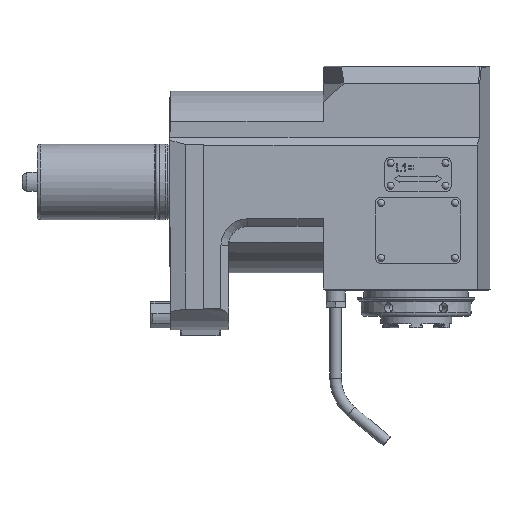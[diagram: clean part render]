
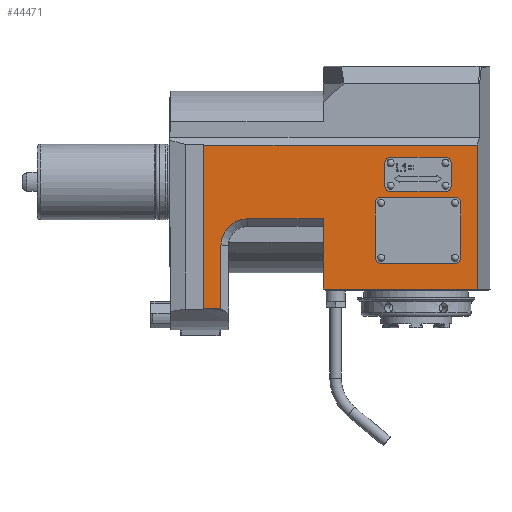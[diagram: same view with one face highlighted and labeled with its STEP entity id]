
A CAD part, front view. The second image highlights one B-rep face of the part: STEP entity #44471.
In plain terms, the highlighted planar face has unit normal (0, -1, 0).
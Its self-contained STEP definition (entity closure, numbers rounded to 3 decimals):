
#18962=VECTOR('',#30075,1.);
#19008=VECTOR('',#30147,1.);
#19132=VECTOR('',#30535,1.);
#19194=VECTOR('',#30767,1.);
#19199=VECTOR('',#30776,1.);
#19200=VECTOR('',#30777,1.);
#19201=VECTOR('',#30778,1.);
#19202=VECTOR('',#30781,1.);
#19203=VECTOR('',#30782,1.);
#19204=VECTOR('',#30785,1.);
#19205=VECTOR('',#30788,1.);
#19206=VECTOR('',#30791,1.);
#19207=VECTOR('',#30794,1.);
#19208=VECTOR('',#30797,1.);
#19209=VECTOR('',#30800,1.);
#19210=VECTOR('',#30803,1.);
#19874=LINE('',#37356,#18962);
#19920=LINE('',#37453,#19008);
#20044=LINE('',#37817,#19132);
#20106=LINE('',#38078,#19194);
#20111=LINE('',#38090,#19199);
#20112=LINE('',#38092,#19200);
#20113=LINE('',#38094,#19201);
#20114=LINE('',#38097,#19202);
#20115=LINE('',#38100,#19203);
#20116=LINE('',#38104,#19204);
#20117=LINE('',#38108,#19205);
#20118=LINE('',#38112,#19206);
#20119=LINE('',#38116,#19207);
#20120=LINE('',#38120,#19208);
#20121=LINE('',#38124,#19209);
#20122=LINE('',#38128,#19210);
#21097=PLANE('',#43251);
#22316=ORIENTED_EDGE('',*,*,#26809,.T.);
#22317=ORIENTED_EDGE('',*,*,#26488,.T.);
#22318=ORIENTED_EDGE('',*,*,#26537,.F.);
#22319=ORIENTED_EDGE('',*,*,#26705,.F.);
#22320=ORIENTED_EDGE('',*,*,#26815,.F.);
#22321=ORIENTED_EDGE('',*,*,#26816,.F.);
#22322=ORIENTED_EDGE('',*,*,#26817,.F.);
#22323=ORIENTED_EDGE('',*,*,#26818,.F.);
#22324=ORIENTED_EDGE('',*,*,#26819,.F.);
#22325=ORIENTED_EDGE('',*,*,#26820,.F.);
#22326=ORIENTED_EDGE('',*,*,#26821,.T.);
#22327=ORIENTED_EDGE('',*,*,#26822,.F.);
#22328=ORIENTED_EDGE('',*,*,#26823,.T.);
#22329=ORIENTED_EDGE('',*,*,#26824,.F.);
#22330=ORIENTED_EDGE('',*,*,#26825,.T.);
#22331=ORIENTED_EDGE('',*,*,#26826,.F.);
#22332=ORIENTED_EDGE('',*,*,#26827,.T.);
#22333=ORIENTED_EDGE('',*,*,#26828,.F.);
#22334=ORIENTED_EDGE('',*,*,#26829,.T.);
#22335=ORIENTED_EDGE('',*,*,#26830,.F.);
#22336=ORIENTED_EDGE('',*,*,#26831,.T.);
#22337=ORIENTED_EDGE('',*,*,#26832,.F.);
#22338=ORIENTED_EDGE('',*,*,#26833,.T.);
#22339=ORIENTED_EDGE('',*,*,#26834,.F.);
#22340=ORIENTED_EDGE('',*,*,#26835,.T.);
#24950=CIRCLE('',#43252,14.);
#24951=CIRCLE('',#43253,3.);
#24952=CIRCLE('',#43254,3.);
#24953=CIRCLE('',#43255,3.);
#24954=CIRCLE('',#43256,3.);
#24955=CIRCLE('',#43257,3.);
#24956=CIRCLE('',#43258,3.);
#24957=CIRCLE('',#43259,3.);
#24958=CIRCLE('',#43260,3.);
#25357=VERTEX_POINT('',#37348);
#25359=VERTEX_POINT('',#37354);
#25397=VERTEX_POINT('',#37451);
#25505=VERTEX_POINT('',#37815);
#25575=VERTEX_POINT('',#38077);
#25580=VERTEX_POINT('',#38089);
#25581=VERTEX_POINT('',#38091);
#25582=VERTEX_POINT('',#38093);
#25583=VERTEX_POINT('',#38095);
#25584=VERTEX_POINT('',#38098);
#25585=VERTEX_POINT('',#38099);
#25586=VERTEX_POINT('',#38101);
#25587=VERTEX_POINT('',#38103);
#25588=VERTEX_POINT('',#38105);
#25589=VERTEX_POINT('',#38107);
#25590=VERTEX_POINT('',#38109);
#25591=VERTEX_POINT('',#38111);
#25592=VERTEX_POINT('',#38114);
#25593=VERTEX_POINT('',#38115);
#25594=VERTEX_POINT('',#38117);
#25595=VERTEX_POINT('',#38119);
#25596=VERTEX_POINT('',#38121);
#25597=VERTEX_POINT('',#38123);
#25598=VERTEX_POINT('',#38125);
#25599=VERTEX_POINT('',#38127);
#26488=EDGE_CURVE('',#25357,#25359,#19874,.T.);
#26537=EDGE_CURVE('',#25397,#25359,#19920,.T.);
#26705=EDGE_CURVE('',#25505,#25397,#20044,.T.);
#26809=EDGE_CURVE('',#25575,#25357,#20106,.T.);
#26815=EDGE_CURVE('',#25580,#25505,#20111,.T.);
#26816=EDGE_CURVE('',#25581,#25580,#20112,.T.);
#26817=EDGE_CURVE('',#25582,#25581,#20113,.T.);
#26818=EDGE_CURVE('',#25583,#25582,#24950,.T.);
#26819=EDGE_CURVE('',#25575,#25583,#20114,.T.);
#26820=EDGE_CURVE('',#25584,#25585,#20115,.T.);
#26821=EDGE_CURVE('',#25584,#25586,#24951,.T.);
#26822=EDGE_CURVE('',#25587,#25586,#20116,.T.);
#26823=EDGE_CURVE('',#25587,#25588,#24952,.T.);
#26824=EDGE_CURVE('',#25589,#25588,#20117,.T.);
#26825=EDGE_CURVE('',#25589,#25590,#24953,.T.);
#26826=EDGE_CURVE('',#25591,#25590,#20118,.T.);
#26827=EDGE_CURVE('',#25591,#25585,#24954,.T.);
#26828=EDGE_CURVE('',#25592,#25593,#20119,.T.);
#26829=EDGE_CURVE('',#25592,#25594,#24955,.T.);
#26830=EDGE_CURVE('',#25595,#25594,#20120,.T.);
#26831=EDGE_CURVE('',#25595,#25596,#24956,.T.);
#26832=EDGE_CURVE('',#25597,#25596,#20121,.T.);
#26833=EDGE_CURVE('',#25597,#25598,#24957,.T.);
#26834=EDGE_CURVE('',#25599,#25598,#20122,.T.);
#26835=EDGE_CURVE('',#25599,#25593,#24958,.T.);
#28291=EDGE_LOOP('',(#22316,#22317,#22318,#22319,#22320,#22321,#22322,#22323,
#22324));
#28292=EDGE_LOOP('',(#22325,#22326,#22327,#22328,#22329,#22330,#22331,#22332));
#28293=EDGE_LOOP('',(#22333,#22334,#22335,#22336,#22337,#22338,#22339,#22340));
#29247=FACE_BOUND('',#28291,.T.);
#29248=FACE_BOUND('',#28292,.T.);
#29249=FACE_BOUND('',#28293,.T.);
#30075=DIRECTION('',(81.301,0.,0.));
#30147=DIRECTION('',(0.,0.,-76.));
#30535=DIRECTION('',(144.301,0.,0.));
#30767=DIRECTION('',(0.,0.,-37.));
#30774=DIRECTION('',(0.,-1.,0.));
#30775=DIRECTION('',(-1.,0.,0.));
#30776=DIRECTION('',(0.,0.,86.463));
#30777=DIRECTION('',(-9.,0.,0.));
#30778=DIRECTION('',(0.,0.,-33.463));
#30779=DIRECTION('',(0.,-1.,0.));
#30780=DIRECTION('',(0.,0.,14.));
#30781=DIRECTION('',(-40.,0.,0.));
#30782=DIRECTION('',(0.,0.,29.));
#30783=DIRECTION('',(0.,1.,0.));
#30784=DIRECTION('',(0.,0.,-3.));
#30785=DIRECTION('',(39.,0.,0.));
#30786=DIRECTION('',(0.,1.,0.));
#30787=DIRECTION('',(0.,0.,-3.));
#30788=DIRECTION('',(0.,0.,-29.));
#30789=DIRECTION('',(0.,1.,0.));
#30790=DIRECTION('',(0.,0.,-3.));
#30791=DIRECTION('',(-39.,0.,0.));
#30792=DIRECTION('',(0.,1.,0.));
#30793=DIRECTION('',(0.,0.,-3.));
#30794=DIRECTION('',(-29.,0.,0.));
#30795=DIRECTION('',(0.,1.,0.));
#30796=DIRECTION('',(0.,0.,-3.));
#30797=DIRECTION('',(0.,0.,12.));
#30798=DIRECTION('',(0.,1.,0.));
#30799=DIRECTION('',(0.,0.,-3.));
#30800=DIRECTION('',(29.,0.,0.));
#30801=DIRECTION('',(0.,1.,0.));
#30802=DIRECTION('',(0.,0.,-3.));
#30803=DIRECTION('',(0.,0.,-12.));
#30804=DIRECTION('',(0.,1.,0.));
#30805=DIRECTION('',(0.,0.,-3.));
#37348=CARTESIAN_POINT('',(81.,-40.,-56.5));
#37354=CARTESIAN_POINT('',(162.301,-40.,-56.5));
#37356=CARTESIAN_POINT('',(81.,-40.,-56.5));
#37451=CARTESIAN_POINT('',(162.301,-40.,19.5));
#37453=CARTESIAN_POINT('',(162.301,-40.,19.5));
#37815=CARTESIAN_POINT('',(18.,-40.,19.5));
#37817=CARTESIAN_POINT('',(18.,-40.,19.5));
#38077=CARTESIAN_POINT('',(81.,-40.,-19.5));
#38078=CARTESIAN_POINT('',(81.,-40.,-19.5));
#38088=CARTESIAN_POINT('',(81.,-40.,-56.5));
#38089=CARTESIAN_POINT('',(18.,-40.,-66.963));
#38090=CARTESIAN_POINT('',(18.,-40.,-66.963));
#38091=CARTESIAN_POINT('',(27.,-40.,-66.963));
#38092=CARTESIAN_POINT('',(27.,-40.,-66.963));
#38093=CARTESIAN_POINT('',(27.,-40.,-33.5));
#38094=CARTESIAN_POINT('',(27.,-40.,-33.5));
#38095=CARTESIAN_POINT('',(41.,-40.,-19.5));
#38096=CARTESIAN_POINT('',(41.,-40.,-33.5));
#38097=CARTESIAN_POINT('',(81.,-40.,-19.5));
#38098=CARTESIAN_POINT('',(153.5,-40.,-40.));
#38099=CARTESIAN_POINT('',(153.5,-40.,-11.));
#38100=CARTESIAN_POINT('',(153.5,-40.,-40.));
#38101=CARTESIAN_POINT('',(150.5,-40.,-43.));
#38102=CARTESIAN_POINT('',(150.5,-40.,-40.));
#38103=CARTESIAN_POINT('',(111.5,-40.,-43.));
#38104=CARTESIAN_POINT('',(111.5,-40.,-43.));
#38105=CARTESIAN_POINT('',(108.5,-40.,-40.));
#38106=CARTESIAN_POINT('',(111.5,-40.,-40.));
#38107=CARTESIAN_POINT('',(108.5,-40.,-11.));
#38108=CARTESIAN_POINT('',(108.5,-40.,-11.));
#38109=CARTESIAN_POINT('',(111.5,-40.,-8.));
#38110=CARTESIAN_POINT('',(111.5,-40.,-11.));
#38111=CARTESIAN_POINT('',(150.5,-40.,-8.));
#38112=CARTESIAN_POINT('',(150.5,-40.,-8.));
#38113=CARTESIAN_POINT('',(150.5,-40.,-11.));
#38114=CARTESIAN_POINT('',(145.5,-40.,13.));
#38115=CARTESIAN_POINT('',(116.5,-40.,13.));
#38116=CARTESIAN_POINT('',(145.5,-40.,13.));
#38117=CARTESIAN_POINT('',(148.5,-40.,10.));
#38118=CARTESIAN_POINT('',(145.5,-40.,10.));
#38119=CARTESIAN_POINT('',(148.5,-40.,-2.));
#38120=CARTESIAN_POINT('',(148.5,-40.,-2.));
#38121=CARTESIAN_POINT('',(145.5,-40.,-5.));
#38122=CARTESIAN_POINT('',(145.5,-40.,-2.));
#38123=CARTESIAN_POINT('',(116.5,-40.,-5.));
#38124=CARTESIAN_POINT('',(116.5,-40.,-5.));
#38125=CARTESIAN_POINT('',(113.5,-40.,-2.));
#38126=CARTESIAN_POINT('',(116.5,-40.,-2.));
#38127=CARTESIAN_POINT('',(113.5,-40.,10.));
#38128=CARTESIAN_POINT('',(113.5,-40.,10.));
#38129=CARTESIAN_POINT('',(116.5,-40.,10.));
#43251=AXIS2_PLACEMENT_3D('',#38088,#30774,#30775);
#43252=AXIS2_PLACEMENT_3D('',#38096,#30779,#30780);
#43253=AXIS2_PLACEMENT_3D('',#38102,#30783,#30784);
#43254=AXIS2_PLACEMENT_3D('',#38106,#30786,#30787);
#43255=AXIS2_PLACEMENT_3D('',#38110,#30789,#30790);
#43256=AXIS2_PLACEMENT_3D('',#38113,#30792,#30793);
#43257=AXIS2_PLACEMENT_3D('',#38118,#30795,#30796);
#43258=AXIS2_PLACEMENT_3D('',#38122,#30798,#30799);
#43259=AXIS2_PLACEMENT_3D('',#38126,#30801,#30802);
#43260=AXIS2_PLACEMENT_3D('',#38129,#30804,#30805);
#44471=ADVANCED_FACE('',(#29247,#29248,#29249),#21097,.T.);
